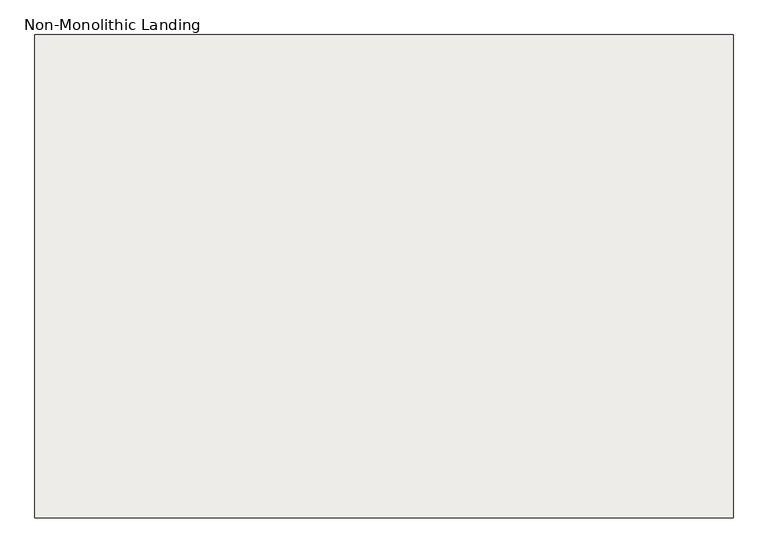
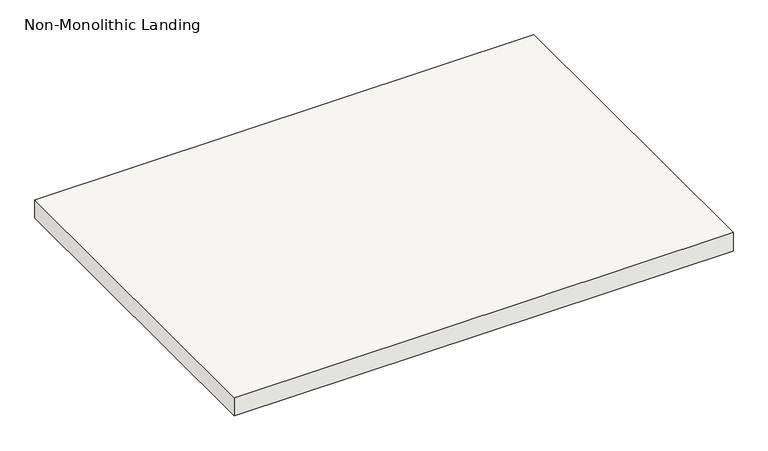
"""IFC4 building model written with IfcOpenShell, lengths in millimetres: slab geometry, Non-Monolithic Landing."""

from ifc_helpers import new_model, si_unit, frame, origin, place, context, project, spatial, polyline, outline, extrude, source, transform, mapped, element, save


def non_monolithic_landing_ede59ca6(model_context):
    return source(origin(), model_context, "Body", "SweptSolid", [
        extrude(outline(polyline([(136852.1523809, -17954.2990002), (138172.9523809, -17954.2990002), (138172.9523809, -18868.6990002), (136852.1523809, -18868.6990002), (136852.1523809, -17954.2990002)])), frame((0.0, 0.0, 2126.3428571), z_axis=(0.0, 0.0, 1.0), x_axis=(1.0, 0.0, 0.0)), (0.0, 0.0, 1.0), 50.8),
    ])


if __name__ == "__main__":
    model = new_model("IFC4")
    model_context = context("Model", 3, world=origin())
    ifc_project = project(units=[si_unit("LENGTHUNIT", "METRE", prefix="MILLI")], contexts=[model_context])
    site = spatial("IfcSite", under=ifc_project)
    building = spatial("IfcBuilding", under=site)
    placement = place(None, origin())
    non_monolithic_landing_shape = non_monolithic_landing_ede59ca6(model_context)
    element("IfcSlab", 1, ObjectType="Non-Monolithic Landing", at=placement, inside=building, context=model_context, shape_type="MappedRepresentation", body=[
        mapped(non_monolithic_landing_shape, transform((0.0, 0.0, 0.0), x_axis=(1.0, 0.0, 0.0), y_axis=(0.0, 1.0, 0.0), z_axis=(0.0, 0.0, 1.0))),
    ])
    save(model, "model.ifc")
